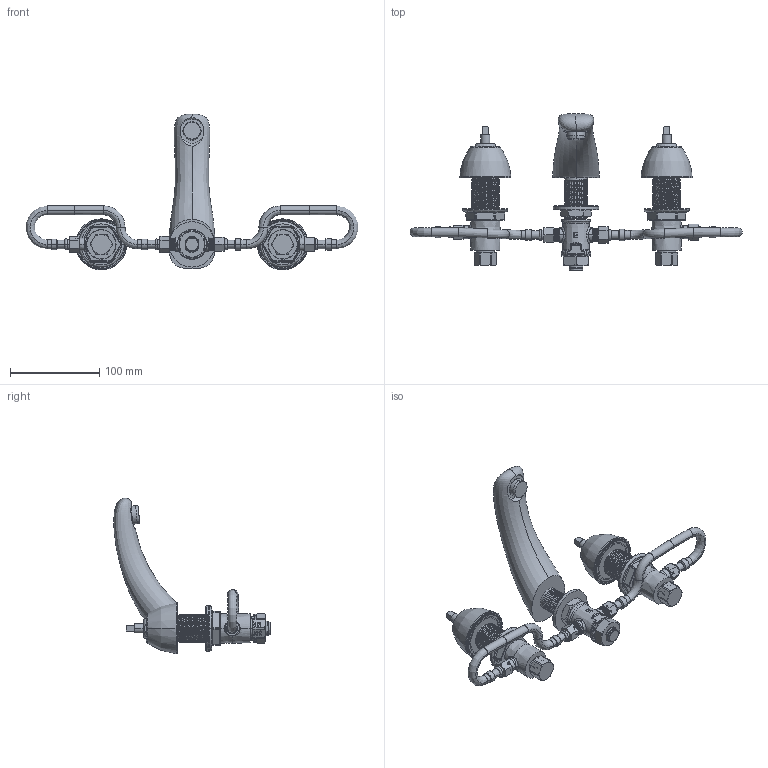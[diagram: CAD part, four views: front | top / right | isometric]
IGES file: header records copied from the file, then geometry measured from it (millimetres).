
Start section:  PTC IGES file: 404-HZE70-LEHAB.igs
Global section: file name: 404-HZE70-LEHAB.igs; native system: Creo Parametric by PTC Inc.; preprocessor: 2017260; author: usch_engrender; organization: Unknown; date: 20180531.154104; units: inch
Bounding box: 371.99 x 175.15 x 174.55 mm (x, y, z)
Surface area: 134559.2 mm2 (no closed solid volume)
Topology: 0 solids, 76 shells, 1048 faces, 2822 edges, 1837 vertices
Faces by surface type: revolution 668, bspline 380
